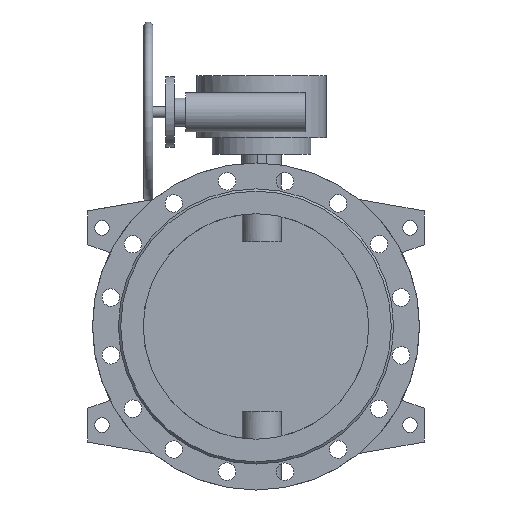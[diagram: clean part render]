
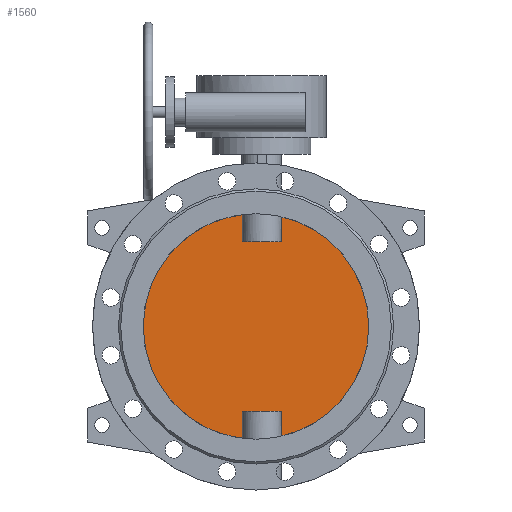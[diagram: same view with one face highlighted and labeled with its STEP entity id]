
A CAD part, front view. The second image highlights one B-rep face of the part: STEP entity #1560.
In plain terms, the highlighted planar face has unit normal (0, -1, 0).
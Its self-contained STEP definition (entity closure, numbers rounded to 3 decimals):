
#1560=ADVANCED_FACE('',(#3217),#3219,.F.);
#3217=FACE_BOUND('',#3218,.T.);
#3218=EDGE_LOOP('',(#4104,#4105,#4106,#4107,#4108,#4109,#4110,#4111));
#3219=PLANE('',#3220);
#3220=AXIS2_PLACEMENT_3D('',#3221,#3222,#3223);
#3221=CARTESIAN_POINT('',(0.,-5.,0.));
#3222=DIRECTION('',(0.,1.,0.));
#3223=DIRECTION('',(1.,0.,0.));
#4104=ORIENTED_EDGE('',*,*,#4523,.T.);
#4105=ORIENTED_EDGE('',*,*,#4539,.T.);
#4106=ORIENTED_EDGE('',*,*,#4540,.T.);
#4107=ORIENTED_EDGE('',*,*,#4541,.T.);
#4108=ORIENTED_EDGE('',*,*,#4525,.T.);
#4109=ORIENTED_EDGE('',*,*,#4542,.T.);
#4110=ORIENTED_EDGE('',*,*,#4543,.T.);
#4111=ORIENTED_EDGE('',*,*,#4544,.T.);
#4523=EDGE_CURVE('',#5231,#5232,#5233,.F.);
#4525=EDGE_CURVE('',#5236,#5234,#5237,.F.);
#4539=EDGE_CURVE('',#5232,#5263,#5264,.T.);
#4540=EDGE_CURVE('',#5263,#5265,#5266,.F.);
#4541=EDGE_CURVE('',#5265,#5236,#5267,.F.);
#4542=EDGE_CURVE('',#5234,#5268,#5269,.F.);
#4543=EDGE_CURVE('',#5268,#5270,#5271,.F.);
#4544=EDGE_CURVE('',#5270,#5231,#5272,.T.);
#5231=VERTEX_POINT('',#10083);
#5232=VERTEX_POINT('',#10084);
#5233=CIRCLE('',#10085,200.);
#5234=VERTEX_POINT('',#10089);
#5236=VERTEX_POINT('',#10152);
#5237=CIRCLE('',#10153,200.);
#5263=VERTEX_POINT('',#10330);
#5264=LINE('',#10331,#10332);
#5265=VERTEX_POINT('',#10334);
#5266=LINE('',#10335,#10336);
#5267=LINE('',#10338,#10339);
#5268=VERTEX_POINT('',#10341);
#5269=LINE('',#10342,#10343);
#5270=VERTEX_POINT('',#10345);
#5271=LINE('',#10346,#10347);
#5272=LINE('',#10349,#10350);
#10083=CARTESIAN_POINT('',(44.641,-5.,-194.954));
#10084=CARTESIAN_POINT('',(44.641,-5.,194.954));
#10085=AXIS2_PLACEMENT_3D('',#10086,#10087,#10088);
#10086=CARTESIAN_POINT('',(0.,-5.,0.));
#10087=DIRECTION('',(0.,1.,0.));
#10088=DIRECTION('',(0.223,0.,0.975));
#10089=CARTESIAN_POINT('',(-24.641,-5.,-198.476));
#10152=CARTESIAN_POINT('',(-24.641,-5.,198.476));
#10153=AXIS2_PLACEMENT_3D('',#10154,#10155,#10156);
#10154=CARTESIAN_POINT('',(0.,-5.,0.));
#10155=DIRECTION('',(0.,1.,0.));
#10156=DIRECTION('',(-0.123,0.,-0.992));
#10330=CARTESIAN_POINT('',(44.641,-5.,150.));
#10331=CARTESIAN_POINT('',(44.641,-5.,194.954));
#10332=VECTOR('',#10333,1.);
#10333=DIRECTION('',(0.,0.,-1.));
#10334=CARTESIAN_POINT('',(-24.641,-5.,150.));
#10335=CARTESIAN_POINT('',(-24.641,-5.,150.));
#10336=VECTOR('',#10337,1.);
#10337=DIRECTION('',(1.,0.,0.));
#10338=CARTESIAN_POINT('',(-24.641,-5.,198.476));
#10339=VECTOR('',#10340,1.);
#10340=DIRECTION('',(0.,0.,-1.));
#10341=CARTESIAN_POINT('',(-24.641,-5.,-150.));
#10342=CARTESIAN_POINT('',(-24.641,-5.,-150.));
#10343=VECTOR('',#10344,1.);
#10344=DIRECTION('',(0.,0.,-1.));
#10345=CARTESIAN_POINT('',(44.641,-5.,-150.));
#10346=CARTESIAN_POINT('',(44.641,-5.,-150.));
#10347=VECTOR('',#10348,1.);
#10348=DIRECTION('',(-1.,0.,0.));
#10349=CARTESIAN_POINT('',(44.641,-5.,-150.));
#10350=VECTOR('',#10351,1.);
#10351=DIRECTION('',(0.,0.,-1.));
